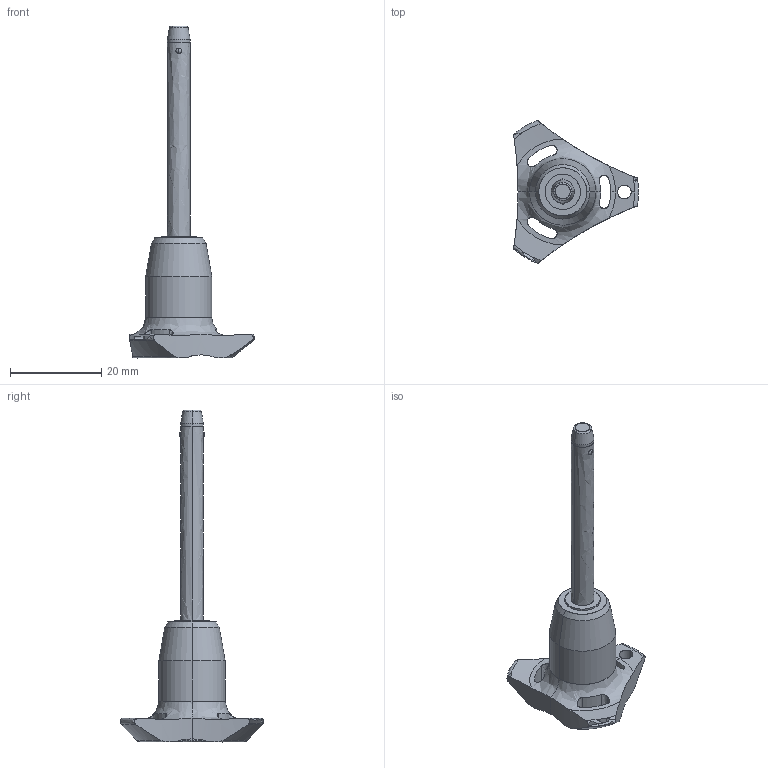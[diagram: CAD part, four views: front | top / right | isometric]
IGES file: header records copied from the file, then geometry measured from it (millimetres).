
Start section: SolidWorks IGES file using analytic representation for surfaces
Global section: file name: C:\Users\ianosborn\Desktop\33060_v2\33060.BK_v2_20240910_IGES\33060.W0806.igs; native system: SolidWorks 2019; preprocessor: SolidWorks 2019; author: IanOsborn; date: 240910.200317; units: millimetre
Bounding box: 27.4 x 31.31 x 72.7 mm (x, y, z)
Surface area: 3136.8 mm2 (no closed solid volume)
Topology: 0 solids, 0 shells, 69 faces, 1299 edges, 1280 vertices
Faces by surface type: revolution 52, bspline 17
